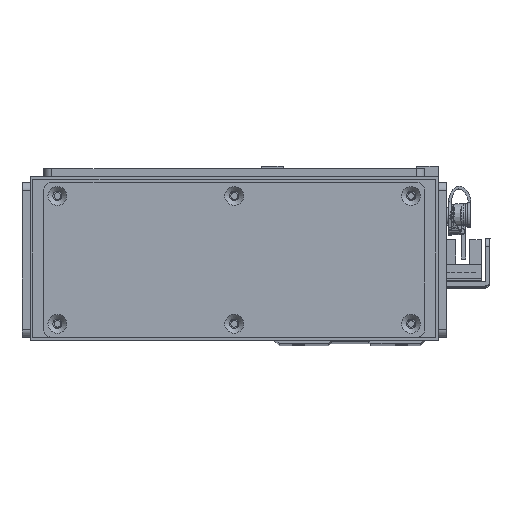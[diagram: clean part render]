
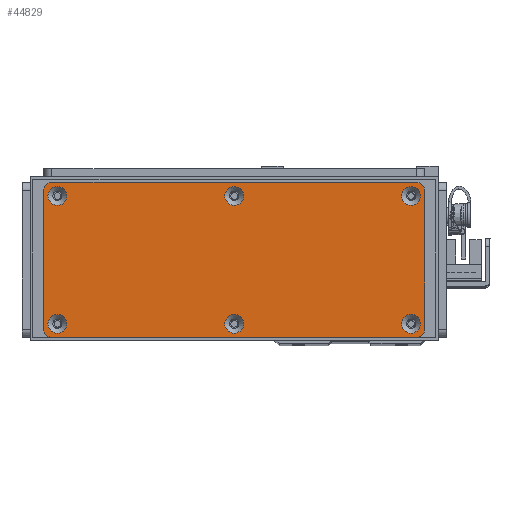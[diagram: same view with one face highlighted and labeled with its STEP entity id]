
A CAD part, top view. The second image highlights one B-rep face of the part: STEP entity #44829.
In plain terms, the highlighted planar face has unit normal (0, 0, 1).
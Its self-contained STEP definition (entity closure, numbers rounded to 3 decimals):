
#1513=FACE_BOUND('',#7795,.T.);
#1514=FACE_BOUND('',#7796,.T.);
#1515=FACE_BOUND('',#7797,.T.);
#1516=FACE_BOUND('',#7798,.T.);
#1517=FACE_BOUND('',#7799,.T.);
#1518=FACE_BOUND('',#7800,.T.);
#3092=PLANE('',#48450);
#5173=FACE_OUTER_BOUND('',#7794,.T.);
#7794=EDGE_LOOP('',(#40504,#40505,#40506,#40507,#40508,#40509,#40510,#40511));
#7795=EDGE_LOOP('',(#40512));
#7796=EDGE_LOOP('',(#40513));
#7797=EDGE_LOOP('',(#40514));
#7798=EDGE_LOOP('',(#40515));
#7799=EDGE_LOOP('',(#40516));
#7800=EDGE_LOOP('',(#40517));
#12628=LINE('',#73551,#17487);
#12631=LINE('',#73559,#17490);
#12634=LINE('',#73567,#17493);
#12637=LINE('',#73574,#17496);
#17487=VECTOR('',#59263,10.);
#17490=VECTOR('',#59272,10.);
#17493=VECTOR('',#59281,10.);
#17496=VECTOR('',#59290,10.);
#18893=CIRCLE('',#48404,3.45);
#18896=CIRCLE('',#48409,3.45);
#18899=CIRCLE('',#48414,3.45);
#18902=CIRCLE('',#48419,3.45);
#18905=CIRCLE('',#48424,3.45);
#18908=CIRCLE('',#48429,3.45);
#18915=CIRCLE('',#48439,3.);
#18916=CIRCLE('',#48442,3.);
#18917=CIRCLE('',#48445,3.);
#18918=CIRCLE('',#48448,3.);
#22787=VERTEX_POINT('',#73467);
#22790=VERTEX_POINT('',#73477);
#22793=VERTEX_POINT('',#73487);
#22796=VERTEX_POINT('',#73497);
#22799=VERTEX_POINT('',#73507);
#22802=VERTEX_POINT('',#73517);
#22813=VERTEX_POINT('',#73544);
#22814=VERTEX_POINT('',#73546);
#22815=VERTEX_POINT('',#73550);
#22816=VERTEX_POINT('',#73554);
#22817=VERTEX_POINT('',#73558);
#22818=VERTEX_POINT('',#73562);
#22819=VERTEX_POINT('',#73566);
#22820=VERTEX_POINT('',#73570);
#28758=EDGE_CURVE('',#22787,#22787,#18893,.T.);
#28763=EDGE_CURVE('',#22790,#22790,#18896,.T.);
#28768=EDGE_CURVE('',#22793,#22793,#18899,.T.);
#28773=EDGE_CURVE('',#22796,#22796,#18902,.T.);
#28778=EDGE_CURVE('',#22799,#22799,#18905,.T.);
#28783=EDGE_CURVE('',#22802,#22802,#18908,.T.);
#28797=EDGE_CURVE('',#22814,#22813,#18915,.T.);
#28799=EDGE_CURVE('',#22815,#22814,#12628,.T.);
#28801=EDGE_CURVE('',#22816,#22815,#18916,.T.);
#28803=EDGE_CURVE('',#22817,#22816,#12631,.T.);
#28805=EDGE_CURVE('',#22818,#22817,#18917,.T.);
#28807=EDGE_CURVE('',#22819,#22818,#12634,.T.);
#28809=EDGE_CURVE('',#22820,#22819,#18918,.T.);
#28811=EDGE_CURVE('',#22813,#22820,#12637,.T.);
#40504=ORIENTED_EDGE('',*,*,#28811,.T.);
#40505=ORIENTED_EDGE('',*,*,#28809,.T.);
#40506=ORIENTED_EDGE('',*,*,#28807,.T.);
#40507=ORIENTED_EDGE('',*,*,#28805,.T.);
#40508=ORIENTED_EDGE('',*,*,#28803,.T.);
#40509=ORIENTED_EDGE('',*,*,#28801,.T.);
#40510=ORIENTED_EDGE('',*,*,#28799,.T.);
#40511=ORIENTED_EDGE('',*,*,#28797,.T.);
#40512=ORIENTED_EDGE('',*,*,#28758,.T.);
#40513=ORIENTED_EDGE('',*,*,#28763,.T.);
#40514=ORIENTED_EDGE('',*,*,#28768,.T.);
#40515=ORIENTED_EDGE('',*,*,#28773,.T.);
#40516=ORIENTED_EDGE('',*,*,#28778,.T.);
#40517=ORIENTED_EDGE('',*,*,#28783,.T.);
#44829=ADVANCED_FACE('',(#5173,#1513,#1514,#1515,#1516,#1517,#1518),#3092,
 .T.);
#48404=AXIS2_PLACEMENT_3D('',#73468,#59171,#59172);
#48409=AXIS2_PLACEMENT_3D('',#73478,#59183,#59184);
#48414=AXIS2_PLACEMENT_3D('',#73488,#59195,#59196);
#48419=AXIS2_PLACEMENT_3D('',#73498,#59207,#59208);
#48424=AXIS2_PLACEMENT_3D('',#73508,#59219,#59220);
#48429=AXIS2_PLACEMENT_3D('',#73518,#59231,#59232);
#48439=AXIS2_PLACEMENT_3D('',#73547,#59258,#59259);
#48442=AXIS2_PLACEMENT_3D('',#73555,#59267,#59268);
#48445=AXIS2_PLACEMENT_3D('',#73563,#59276,#59277);
#48448=AXIS2_PLACEMENT_3D('',#73571,#59285,#59286);
#48450=AXIS2_PLACEMENT_3D('',#73575,#59291,#59292);
#59171=DIRECTION('center_axis',(0.,0.,-1.));
#59172=DIRECTION('ref_axis',(1.,0.,0.));
#59183=DIRECTION('center_axis',(0.,0.,-1.));
#59184=DIRECTION('ref_axis',(1.,0.,0.));
#59195=DIRECTION('center_axis',(0.,0.,-1.));
#59196=DIRECTION('ref_axis',(1.,0.,0.));
#59207=DIRECTION('center_axis',(0.,0.,-1.));
#59208=DIRECTION('ref_axis',(1.,0.,0.));
#59219=DIRECTION('center_axis',(0.,0.,-1.));
#59220=DIRECTION('ref_axis',(1.,0.,0.));
#59231=DIRECTION('center_axis',(0.,0.,-1.));
#59232=DIRECTION('ref_axis',(1.,0.,0.));
#59258=DIRECTION('center_axis',(0.,0.,1.));
#59259=DIRECTION('ref_axis',(0.,1.,0.));
#59263=DIRECTION('',(-1.,0.,0.));
#59267=DIRECTION('center_axis',(0.,0.,1.));
#59268=DIRECTION('ref_axis',(1.,0.,0.));
#59272=DIRECTION('',(0.,1.,0.));
#59276=DIRECTION('center_axis',(0.,0.,1.));
#59277=DIRECTION('ref_axis',(0.,-1.,0.));
#59281=DIRECTION('',(1.,0.,0.));
#59285=DIRECTION('center_axis',(0.,0.,1.));
#59286=DIRECTION('ref_axis',(-1.,0.,0.));
#59290=DIRECTION('',(0.,-1.,0.));
#59291=DIRECTION('center_axis',(0.,0.,1.));
#59292=DIRECTION('ref_axis',(1.,0.,0.));
#73467=CARTESIAN_POINT('',(-3.45,23.5,1.5));
#73468=CARTESIAN_POINT('Origin',(0.,23.5,1.5));
#73477=CARTESIAN_POINT('',(61.55,-23.5,1.5));
#73478=CARTESIAN_POINT('Origin',(65.,-23.5,1.5));
#73487=CARTESIAN_POINT('',(-68.45,23.5,1.5));
#73488=CARTESIAN_POINT('Origin',(-65.,23.5,1.5));
#73497=CARTESIAN_POINT('',(61.55,23.5,1.5));
#73498=CARTESIAN_POINT('Origin',(65.,23.5,1.5));
#73507=CARTESIAN_POINT('',(-68.45,-23.5,1.5));
#73508=CARTESIAN_POINT('Origin',(-65.,-23.5,1.5));
#73517=CARTESIAN_POINT('',(-3.45,-23.5,1.5));
#73518=CARTESIAN_POINT('Origin',(0.,-23.5,1.5));
#73544=CARTESIAN_POINT('',(-70.,25.5,1.5));
#73546=CARTESIAN_POINT('',(-67.,28.5,1.5));
#73547=CARTESIAN_POINT('Origin',(-67.,25.5,1.5));
#73550=CARTESIAN_POINT('',(67.,28.5,1.5));
#73551=CARTESIAN_POINT('',(67.,28.5,1.5));
#73554=CARTESIAN_POINT('',(70.,25.5,1.5));
#73555=CARTESIAN_POINT('Origin',(67.,25.5,1.5));
#73558=CARTESIAN_POINT('',(70.,-25.5,1.5));
#73559=CARTESIAN_POINT('',(70.,-25.5,1.5));
#73562=CARTESIAN_POINT('',(67.,-28.5,1.5));
#73563=CARTESIAN_POINT('Origin',(67.,-25.5,1.5));
#73566=CARTESIAN_POINT('',(-67.,-28.5,1.5));
#73567=CARTESIAN_POINT('',(-67.,-28.5,1.5));
#73570=CARTESIAN_POINT('',(-70.,-25.5,1.5));
#73571=CARTESIAN_POINT('Origin',(-67.,-25.5,1.5));
#73574=CARTESIAN_POINT('',(-70.,25.5,1.5));
#73575=CARTESIAN_POINT('Origin',(0.,0.,
1.5));
